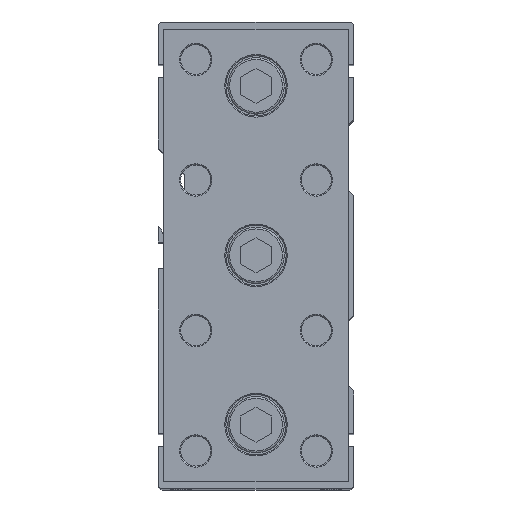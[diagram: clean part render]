
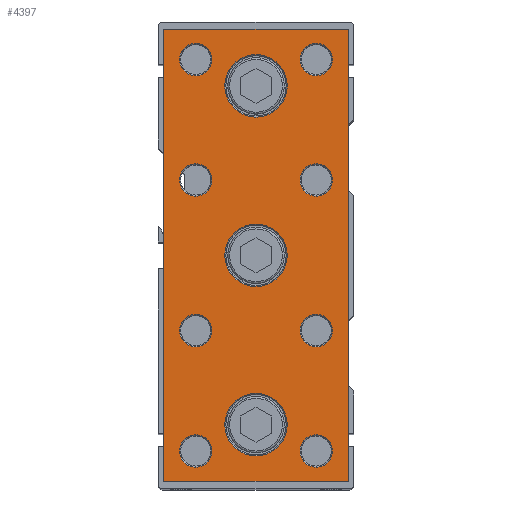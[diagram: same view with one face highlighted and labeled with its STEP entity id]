
A CAD part, top view. The second image highlights one B-rep face of the part: STEP entity #4397.
In plain terms, the highlighted planar face has unit normal (0, 0, 1).
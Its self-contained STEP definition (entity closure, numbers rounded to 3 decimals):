
#4040=CARTESIAN_POINT('',(24.5,60.0,17.0));
#4041=VERTEX_POINT('',#4040);
#4042=CARTESIAN_POINT('',(24.5,-60.0,17.0));
#4043=VERTEX_POINT('',#4042);
#4044=CARTESIAN_POINT('',(24.5,60.0,17.0));
#4045=DIRECTION('',(0.0,-1.0,0.0));
#4046=VECTOR('',#4045,120.0);
#4047=LINE('',#4044,#4046);
#4048=EDGE_CURVE('',#4041,#4043,#4047,.T.);
#4174=CARTESIAN_POINT('',(-24.5,-60.0,17.0));
#4175=VERTEX_POINT('',#4174);
#4176=CARTESIAN_POINT('',(-24.5,60.0,17.0));
#4177=VERTEX_POINT('',#4176);
#4178=CARTESIAN_POINT('',(-24.5,-60.0,17.0));
#4179=DIRECTION('',(0.0,1.0,0.0));
#4180=VECTOR('',#4179,120.0);
#4181=LINE('',#4178,#4180);
#4182=EDGE_CURVE('',#4175,#4177,#4181,.T.);
#4251=CARTESIAN_POINT('',(8.3,0.,17.0));
#4252=VERTEX_POINT('',#4251);
#4253=CARTESIAN_POINT('',(0.0,0.0,17.0));
#4254=DIRECTION('',(0.0,0.0,1.0));
#4255=DIRECTION('',(-1.0,0.0,0.0));
#4256=AXIS2_PLACEMENT_3D('',#4253,#4254,#4255);
#4257=CIRCLE('',#4256,8.3);
#4258=EDGE_CURVE('',#4252,#4252,#4257,.T.);
#4263=CARTESIAN_POINT('',(0.0,0.,17.0));
#4264=DIRECTION('',(0.0,0.0,1.0));
#4265=DIRECTION('',(1.0,0.0,0.0));
#4266=AXIS2_PLACEMENT_3D('',#4263,#4264,#4265);
#4267=PLANE('',#4266);
#4268=ORIENTED_EDGE('',*,*,#4048,.F.);
#4269=CARTESIAN_POINT('',(-24.5,60.0,17.0));
#4270=DIRECTION('',(1.0,0.0,0.0));
#4271=VECTOR('',#4270,49.);
#4272=LINE('',#4269,#4271);
#4273=EDGE_CURVE('',#4177,#4041,#4272,.T.);
#4274=ORIENTED_EDGE('',*,*,#4273,.F.);
#4275=ORIENTED_EDGE('',*,*,#4182,.F.);
#4276=CARTESIAN_POINT('',(24.5,-60.0,17.0));
#4277=DIRECTION('',(-1.0,0.0,0.0));
#4278=VECTOR('',#4277,49.);
#4279=LINE('',#4276,#4278);
#4280=EDGE_CURVE('',#4043,#4175,#4279,.T.);
#4281=ORIENTED_EDGE('',*,*,#4280,.F.);
#4282=EDGE_LOOP('',(#4268,#4274,#4275,#4281));
#4283=FACE_OUTER_BOUND('',#4282,.T.);
#4284=CARTESIAN_POINT('',(8.3,-45.0,17.0));
#4285=VERTEX_POINT('',#4284);
#4286=CARTESIAN_POINT('',(0.0,-45.0,17.0));
#4287=DIRECTION('',(0.0,0.0,1.0));
#4288=DIRECTION('',(-1.0,0.0,0.0));
#4289=AXIS2_PLACEMENT_3D('',#4286,#4287,#4288);
#4290=CIRCLE('',#4289,8.3);
#4291=EDGE_CURVE('',#4285,#4285,#4290,.T.);
#4292=ORIENTED_EDGE('',*,*,#4291,.F.);
#4293=EDGE_LOOP('',(#4292));
#4294=FACE_BOUND('',#4293,.T.);
#4295=CARTESIAN_POINT('',(20.3,-52.0,17.0));
#4296=VERTEX_POINT('',#4295);
#4297=CARTESIAN_POINT('',(16.0,-52.0,17.0));
#4298=DIRECTION('',(0.0,0.0,1.0));
#4299=DIRECTION('',(-1.0,0.0,0.0));
#4300=AXIS2_PLACEMENT_3D('',#4297,#4298,#4299);
#4301=CIRCLE('',#4300,4.3);
#4302=EDGE_CURVE('',#4296,#4296,#4301,.T.);
#4303=ORIENTED_EDGE('',*,*,#4302,.F.);
#4304=EDGE_LOOP('',(#4303));
#4305=FACE_BOUND('',#4304,.T.);
#4306=CARTESIAN_POINT('',(20.3,52.0,17.0));
#4307=VERTEX_POINT('',#4306);
#4308=CARTESIAN_POINT('',(16.0,52.0,17.0));
#4309=DIRECTION('',(0.0,0.0,1.0));
#4310=DIRECTION('',(-1.0,0.0,0.0));
#4311=AXIS2_PLACEMENT_3D('',#4308,#4309,#4310);
#4312=CIRCLE('',#4311,4.3);
#4313=EDGE_CURVE('',#4307,#4307,#4312,.T.);
#4314=ORIENTED_EDGE('',*,*,#4313,.F.);
#4315=EDGE_LOOP('',(#4314));
#4316=FACE_BOUND('',#4315,.T.);
#4317=CARTESIAN_POINT('',(-11.7,-52.0,17.0));
#4318=VERTEX_POINT('',#4317);
#4319=CARTESIAN_POINT('',(-16.0,-52.0,17.0));
#4320=DIRECTION('',(0.0,0.0,1.0));
#4321=DIRECTION('',(-1.0,0.0,0.0));
#4322=AXIS2_PLACEMENT_3D('',#4319,#4320,#4321);
#4323=CIRCLE('',#4322,4.3);
#4324=EDGE_CURVE('',#4318,#4318,#4323,.T.);
#4325=ORIENTED_EDGE('',*,*,#4324,.F.);
#4326=EDGE_LOOP('',(#4325));
#4327=FACE_BOUND('',#4326,.T.);
#4328=CARTESIAN_POINT('',(-11.7,20.0,17.0));
#4329=VERTEX_POINT('',#4328);
#4330=CARTESIAN_POINT('',(-16.0,20.0,17.0));
#4331=DIRECTION('',(0.0,0.0,1.0));
#4332=DIRECTION('',(-1.0,0.0,0.0));
#4333=AXIS2_PLACEMENT_3D('',#4330,#4331,#4332);
#4334=CIRCLE('',#4333,4.3);
#4335=EDGE_CURVE('',#4329,#4329,#4334,.T.);
#4336=ORIENTED_EDGE('',*,*,#4335,.F.);
#4337=EDGE_LOOP('',(#4336));
#4338=FACE_BOUND('',#4337,.T.);
#4339=CARTESIAN_POINT('',(-11.7,52.0,17.0));
#4340=VERTEX_POINT('',#4339);
#4341=CARTESIAN_POINT('',(-16.0,52.0,17.0));
#4342=DIRECTION('',(0.0,0.0,1.0));
#4343=DIRECTION('',(-1.0,0.0,0.0));
#4344=AXIS2_PLACEMENT_3D('',#4341,#4342,#4343);
#4345=CIRCLE('',#4344,4.3);
#4346=EDGE_CURVE('',#4340,#4340,#4345,.T.);
#4347=ORIENTED_EDGE('',*,*,#4346,.F.);
#4348=EDGE_LOOP('',(#4347));
#4349=FACE_BOUND('',#4348,.T.);
#4350=CARTESIAN_POINT('',(-11.7,-20.0,17.0));
#4351=VERTEX_POINT('',#4350);
#4352=CARTESIAN_POINT('',(-16.0,-20.0,17.0));
#4353=DIRECTION('',(0.0,0.0,1.0));
#4354=DIRECTION('',(-1.0,0.0,0.0));
#4355=AXIS2_PLACEMENT_3D('',#4352,#4353,#4354);
#4356=CIRCLE('',#4355,4.3);
#4357=EDGE_CURVE('',#4351,#4351,#4356,.T.);
#4358=ORIENTED_EDGE('',*,*,#4357,.F.);
#4359=EDGE_LOOP('',(#4358));
#4360=FACE_BOUND('',#4359,.T.);
#4361=CARTESIAN_POINT('',(20.3,-20.0,17.0));
#4362=VERTEX_POINT('',#4361);
#4363=CARTESIAN_POINT('',(16.0,-20.0,17.0));
#4364=DIRECTION('',(0.0,0.0,1.0));
#4365=DIRECTION('',(-1.0,0.0,0.0));
#4366=AXIS2_PLACEMENT_3D('',#4363,#4364,#4365);
#4367=CIRCLE('',#4366,4.3);
#4368=EDGE_CURVE('',#4362,#4362,#4367,.T.);
#4369=ORIENTED_EDGE('',*,*,#4368,.F.);
#4370=EDGE_LOOP('',(#4369));
#4371=FACE_BOUND('',#4370,.T.);
#4372=CARTESIAN_POINT('',(20.3,20.0,17.0));
#4373=VERTEX_POINT('',#4372);
#4374=CARTESIAN_POINT('',(16.0,20.0,17.0));
#4375=DIRECTION('',(0.0,0.0,1.0));
#4376=DIRECTION('',(-1.0,0.0,0.0));
#4377=AXIS2_PLACEMENT_3D('',#4374,#4375,#4376);
#4378=CIRCLE('',#4377,4.3);
#4379=EDGE_CURVE('',#4373,#4373,#4378,.T.);
#4380=ORIENTED_EDGE('',*,*,#4379,.F.);
#4381=EDGE_LOOP('',(#4380));
#4382=FACE_BOUND('',#4381,.T.);
#4383=CARTESIAN_POINT('',(8.3,45.0,17.0));
#4384=VERTEX_POINT('',#4383);
#4385=CARTESIAN_POINT('',(0.0,45.0,17.0));
#4386=DIRECTION('',(0.0,0.0,1.0));
#4387=DIRECTION('',(-1.0,0.0,0.0));
#4388=AXIS2_PLACEMENT_3D('',#4385,#4386,#4387);
#4389=CIRCLE('',#4388,8.3);
#4390=EDGE_CURVE('',#4384,#4384,#4389,.T.);
#4391=ORIENTED_EDGE('',*,*,#4390,.F.);
#4392=EDGE_LOOP('',(#4391));
#4393=FACE_BOUND('',#4392,.T.);
#4394=ORIENTED_EDGE('',*,*,#4258,.F.);
#4395=EDGE_LOOP('',(#4394));
#4396=FACE_BOUND('',#4395,.T.);
#4397=ADVANCED_FACE('',(#4283,#4294,#4305,#4316,#4327,#4338,#4349,#4360,#4371,#4382,#4393,#4396),#4267,.T.);
